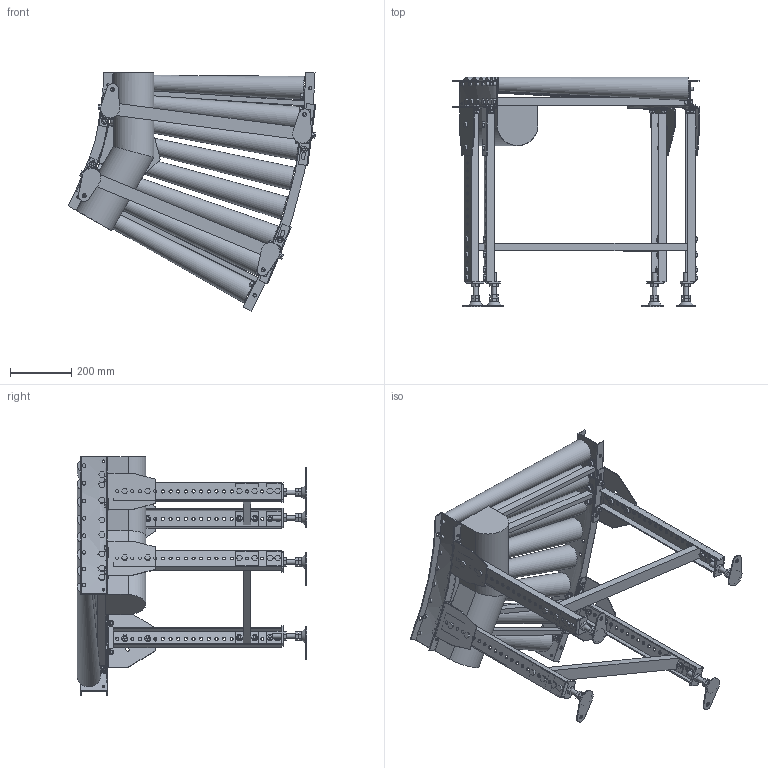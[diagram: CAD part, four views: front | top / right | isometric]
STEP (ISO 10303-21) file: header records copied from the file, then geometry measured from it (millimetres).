
FILE_DESCRIPTION( (''), '2;1');
FILE_NAME ('WEB-MCD-50-630-75-30°-C9.stp','2026-02-20T12:19:02',(''),(''),'spGate 20.6.2 (****-****-****-****)','','');
FILE_SCHEMA (('AUTOMOTIVE_DESIGN'));
Length unit declared in the file: millimetre
Products named in the file (30): WEB-MCD-50-630-75-30_-C9; TEMP_X_T-prt0; TEMP_X_T-prt1; TEMP_X_T-prt2; TEMP_X_T-prt3; TEMP_X_T-prt4; TEMP_X_T-prt5; TEMP_X_T-prt6; TEMP_X_T-prt7; TEMP_X_T-prt8; TEMP_X_T-prt9; TEMP_X_T-prt10; TEMP_X_T-prt11; TEMP_X_T-prt12; TEMP_X_T-prt13; TEMP_X_T-prt14; TEMP_X_T-prt15; TEMP_X_T-prt16; TEMP_X_T-prt17; TEMP_X_T-prt18; TEMP_X_T-prt19; TEMP_X_T-prt20; TEMP_X_T-prt21; TEMP_X_T-prt22; TEMP_X_T-prt23; TEMP_X_T-prt24; TEMP_X_T-prt25; TEMP_X_T-prt26; TEMP_X_T-prt27; TEMP_X_T-prt28
Assembly tree (29 placements, depth 2):
  WEB-MCD-50-630-75-30_-C9
    TEMP_X_T-prt0
    TEMP_X_T-prt1
    TEMP_X_T-prt2
    TEMP_X_T-prt3
    TEMP_X_T-prt4
    TEMP_X_T-prt5
    TEMP_X_T-prt6
    TEMP_X_T-prt7
    TEMP_X_T-prt8
    TEMP_X_T-prt9
    TEMP_X_T-prt10
    TEMP_X_T-prt11
    TEMP_X_T-prt12
    TEMP_X_T-prt13
    TEMP_X_T-prt14
    TEMP_X_T-prt15
    TEMP_X_T-prt16
    TEMP_X_T-prt17
    TEMP_X_T-prt18
    TEMP_X_T-prt19
    TEMP_X_T-prt20
    TEMP_X_T-prt21
    TEMP_X_T-prt22
    TEMP_X_T-prt23
    TEMP_X_T-prt24
    TEMP_X_T-prt25
    TEMP_X_T-prt26
    TEMP_X_T-prt27
    TEMP_X_T-prt28
Bounding box: 808.86 x 749.97 x 780 mm (x, y, z)
Volume: 27607293.2 mm3; surface area: 2903812.6 mm2
Topology: 29 solids, 51 shells, 2109 faces, 5089 edges, 3274 vertices
Faces by surface type: plane 1780, cylinder 317, bspline 12
Full cylindrical faces by diameter (mm): 8.5 x6, 10 x56, 10.5 x92, 11 x4, 12 x16, 13 x4, 14 x5, 16 x4, 18.4 x40, 18.5 x8, 21 x24
Entity records: 105903 total; most frequent: CARTESIAN_POINT 12825, DIRECTION 10607, ORIENTED_EDGE 10178, COLOUR_RGB 7227, PRESENTATION_STYLE_ASSIGNMENT 7227, STYLED_ITEM 7227, EDGE_CURVE 5089, DRAUGHTING_PRE_DEFINED_CURVE_FONT 5089
